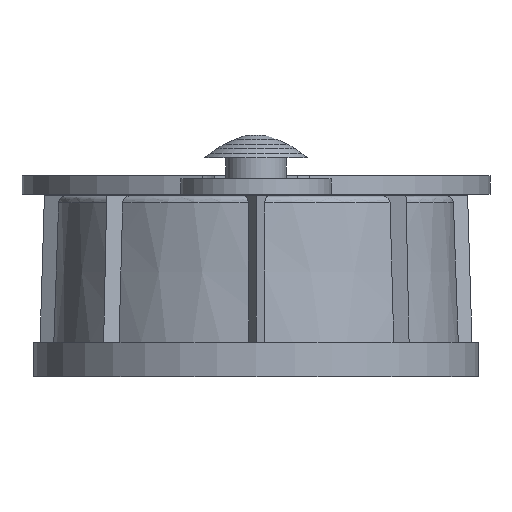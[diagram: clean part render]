
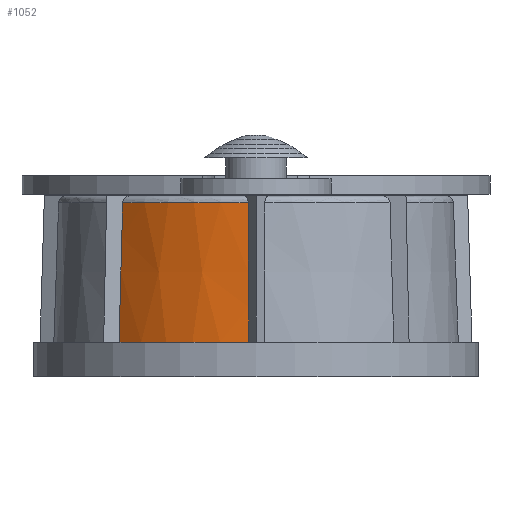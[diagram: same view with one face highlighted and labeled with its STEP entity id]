
A CAD part, left-side view. The second image highlights one B-rep face of the part: STEP entity #1052.
In plain terms, the highlighted conical face has half-angle 2 degrees and reference radius 13.4 mm.
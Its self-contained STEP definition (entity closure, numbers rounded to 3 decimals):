
#303 = VERTEX_POINT('',#304);
#304 = CARTESIAN_POINT('',(-13.391,0.492,2.3));
#310 = EDGE_CURVE('',#311,#303,#313,.T.);
#311 = VERTEX_POINT('',#312);
#312 = CARTESIAN_POINT('',(-9.862,9.072,2.3));
#313 = CIRCLE('',#314,13.4);
#314 = AXIS2_PLACEMENT_3D('',#315,#316,#317);
#315 = CARTESIAN_POINT('',(0.,0.,2.3));
#316 = DIRECTION('',(0.,0.,1.));
#317 = DIRECTION('',(1.,0.,-0.));
#1014 = EDGE_CURVE('',#1015,#311,#1017,.T.);
#1015 = VERTEX_POINT('',#1016);
#1016 = CARTESIAN_POINT('',(-9.653,8.824,
    11.517));
#1017 = HYPERBOLA('',#1018,49.947,1.575);
#1018 = AXIS2_PLACEMENT_3D('',#1019,#1020,#1021);
#1019 = CARTESIAN_POINT('',(-1.685,-0.451,
    364.574));
#1020 = DIRECTION('',(0.966,0.259,-0.015)
  );
#1021 = DIRECTION('',(-0.014,-0.004,
    -1.));
#1052 = ADVANCED_FACE('',(#1053),#1073,.T.);
#1053 = FACE_BOUND('',#1054,.T.);
#1054 = EDGE_LOOP('',(#1055,#1056,#1057,#1066));
#1055 = ORIENTED_EDGE('',*,*,#1014,.T.);
#1056 = ORIENTED_EDGE('',*,*,#310,.T.);
#1057 = ORIENTED_EDGE('',*,*,#1058,.T.);
#1058 = EDGE_CURVE('',#303,#1059,#1061,.T.);
#1059 = VERTEX_POINT('',#1060);
#1060 = CARTESIAN_POINT('',(-13.068,0.519,
    11.517));
#1061 = HYPERBOLA('',#1062,47.972,1.513);
#1062 = AXIS2_PLACEMENT_3D('',#1063,#1064,#1065);
#1063 = CARTESIAN_POINT('',(-0.838,1.451,
    365.422));
#1064 = DIRECTION('',(0.5,-0.866,-0.015
    ));
#1065 = DIRECTION('',(-0.007,0.013,
    -1.));
#1066 = ORIENTED_EDGE('',*,*,#1067,.F.);
#1067 = EDGE_CURVE('',#1015,#1059,#1068,.T.);
#1068 = CIRCLE('',#1069,13.078);
#1069 = AXIS2_PLACEMENT_3D('',#1070,#1071,#1072);
#1070 = CARTESIAN_POINT('',(0.,0.,11.517));
#1071 = DIRECTION('',(0.,0.,1.));
#1072 = DIRECTION('',(-0.738,0.675,0.));
#1073 = CONICAL_SURFACE('',#1074,13.4,0.035);
#1074 = AXIS2_PLACEMENT_3D('',#1075,#1076,#1077);
#1075 = CARTESIAN_POINT('',(0.,0.,2.3));
#1076 = DIRECTION('',(-0.,-0.,-1.));
#1077 = DIRECTION('',(1.,0.,0.));
